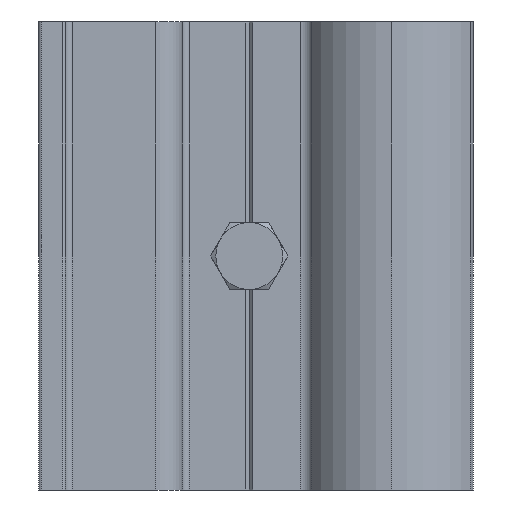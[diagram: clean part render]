
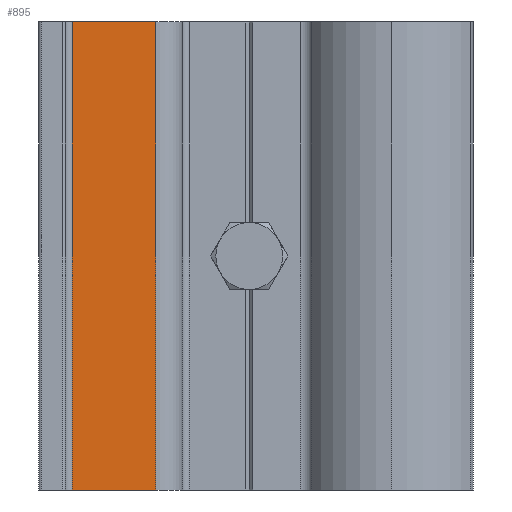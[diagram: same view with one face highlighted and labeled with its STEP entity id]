
A CAD part, left-side view. The second image highlights one B-rep face of the part: STEP entity #895.
In plain terms, the highlighted planar face has unit normal (-1, 0, 0).
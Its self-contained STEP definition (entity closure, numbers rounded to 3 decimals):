
#868 = EDGE_LOOP ( 'NONE', ( #897, #896, #914, #908 ) ) ;
#872 = VERTEX_POINT ( 'NONE', #4873 ) ;
#895 = ADVANCED_FACE ( 'NONE', ( #4850 ), #4838, .F. ) ;
#896 = ORIENTED_EDGE ( 'NONE', *, *, #898, .F. ) ;
#897 = ORIENTED_EDGE ( 'NONE', *, *, #916, .T. ) ;
#898 = EDGE_CURVE ( 'NONE', #920, #922, #4899, .T. ) ;
#900 = EDGE_CURVE ( 'NONE', #872, #920, #4894, .T. ) ;
#908 = ORIENTED_EDGE ( 'NONE', *, *, #909, .T. ) ;
#909 = EDGE_CURVE ( 'NONE', #872, #912, #4920, .T. ) ;
#912 = VERTEX_POINT ( 'NONE', #4934 ) ;
#914 = ORIENTED_EDGE ( 'NONE', *, *, #900, .F. ) ;
#916 = EDGE_CURVE ( 'NONE', #912, #922, #4915, .T. ) ;
#920 = VERTEX_POINT ( 'NONE', #4908 ) ;
#922 = VERTEX_POINT ( 'NONE', #4913 ) ;
#4838 = PLANE ( 'NONE',  #4852 ) ;
#4850 = FACE_OUTER_BOUND ( 'NONE', #868, .T. ) ;
#4851 = CARTESIAN_POINT ( 'NONE',  ( -1318.404, 2623.586, 70. ) ) ;
#4852 = AXIS2_PLACEMENT_3D ( 'NONE', #4851, #4901, #4900 ) ;
#4873 = CARTESIAN_POINT ( 'NONE',  ( -1318.404, 2623.586, 70. ) ) ;
#4891 = DIRECTION ( 'NONE',  ( 0., -1., 0. ) ) ;
#4892 = VECTOR ( 'NONE', #4891, 1000. ) ;
#4893 = CARTESIAN_POINT ( 'NONE',  ( -1318.404, 2623.586, 70. ) ) ;
#4894 = LINE ( 'NONE', #4893, #4892 ) ;
#4895 = DIRECTION ( 'NONE',  ( 0., 0., -1. ) ) ;
#4896 = VECTOR ( 'NONE', #4895, 1000. ) ;
#4897 = CARTESIAN_POINT ( 'NONE',  ( -1318.404, 2611.086, 70. ) ) ;
#4899 = LINE ( 'NONE', #4897, #4896 ) ;
#4900 = DIRECTION ( 'NONE',  ( 0., 1., 0. ) ) ;
#4901 = DIRECTION ( 'NONE',  ( 1., 0., 0. ) ) ;
#4906 = DIRECTION ( 'NONE',  ( 0., -1., 0. ) ) ;
#4907 = VECTOR ( 'NONE', #4906, 1000. ) ;
#4908 = CARTESIAN_POINT ( 'NONE',  ( -1318.404, 2611.086, 70. ) ) ;
#4913 = CARTESIAN_POINT ( 'NONE',  ( -1318.404, 2611.086, 0. ) ) ;
#4914 = CARTESIAN_POINT ( 'NONE',  ( -1318.404, 2623.586, 0. ) ) ;
#4915 = LINE ( 'NONE', #4914, #4907 ) ;
#4918 = DIRECTION ( 'NONE',  ( 0., 0., -1. ) ) ;
#4919 = VECTOR ( 'NONE', #4918, 1000. ) ;
#4920 = LINE ( 'NONE', #4931, #4919 ) ;
#4931 = CARTESIAN_POINT ( 'NONE',  ( -1318.404, 2623.586, 70. ) ) ;
#4934 = CARTESIAN_POINT ( 'NONE',  ( -1318.404, 2623.586, 0. ) ) ;
